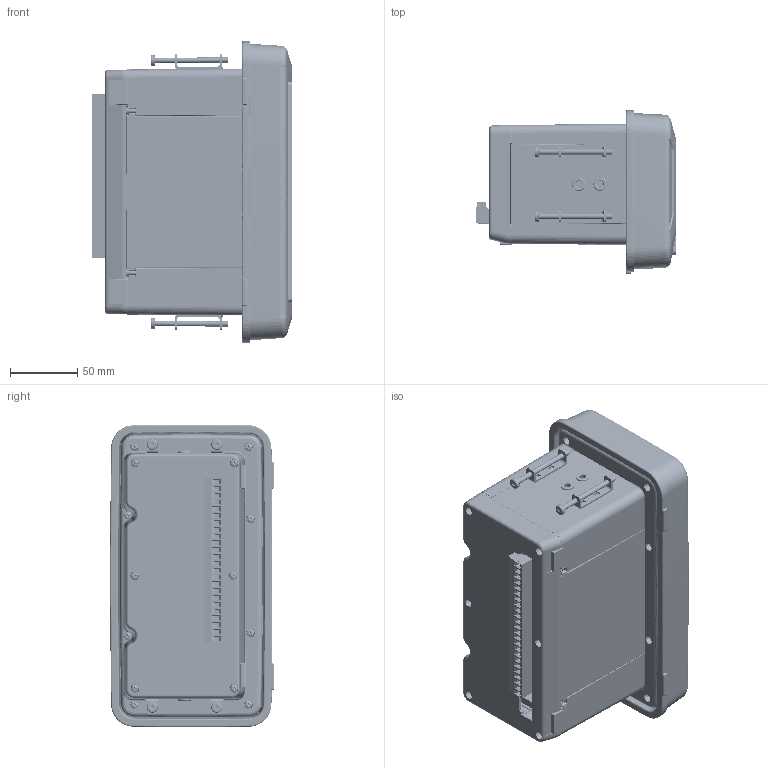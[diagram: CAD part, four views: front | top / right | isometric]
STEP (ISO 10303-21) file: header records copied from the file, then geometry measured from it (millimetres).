
FILE_DESCRIPTION((''),'1');
FILE_NAME('EILE_version-Q.step','2023-01-18T15:44:26',(''),(''),'','','');
FILE_SCHEMA(('AUTOMOTIVE_DESIGN { 1 0 10303 214 1 1 1 1 }'));
Products named in the file (22): EILE version-Q; EILE cover 01; EILE seal 01; EILE body 01; EILE screw 01; EILE part 02; EILE part 03; EILE screw 02; EILE part 04; EILE screw 04; EILE part 05; EILE part 06; EILE screw 05; EILE seal 02; EILE cover 03; EILE part 07; EILE part 08; EILE connector 01; EILE circuit board 01
Assembly tree (44 placements, depth 3):
  EILE version-Q
    EILE cover 01
    EILE seal 01
    EILE body 01
    EILE screw 01  x8
    EILE part 02
    EILE part 03
      EILE screw 02
      EILE part 04
    EILE part 03
      EILE screw 02
      EILE part 04
    EILE screw 04  x4
    EILE part 05
    EILE part 03
      EILE screw 02
      EILE part 04
    EILE part 03
      EILE screw 02
      EILE part 04
    EILE part 06
    EILE screw 05  x8
    EILE seal 02
    EILE cover 03
    EILE part 07
      EILE part 08
      EILE connector 01
      EILE circuit board 01
Bounding box: 149.7 x 121.93 x 225.28 mm (x, y, z)
Volume: 521660.6 mm3; surface area: 502559.4 mm2
Topology: 39 solids, 43 shells, 8570 faces, 21699 edges, 13537 vertices
Faces by surface type: plane 4650, cylinder 2266, torus 661, cone 496, sphere 193, bspline 175, revolution 129
Entity records: 248354 total; most frequent: CARTESIAN_POINT 64024, DIRECTION 39334, ORIENTED_EDGE 38014, EDGE_CURVE 19009, AXIS2_PLACEMENT_3D 13951, VERTEX_POINT 11817, LINE 11303, VECTOR 11303
